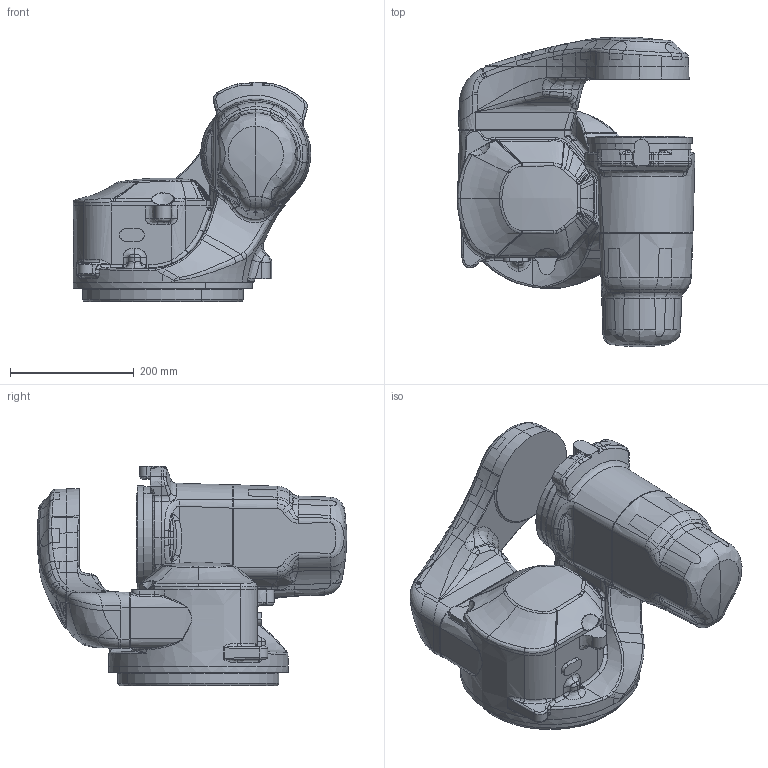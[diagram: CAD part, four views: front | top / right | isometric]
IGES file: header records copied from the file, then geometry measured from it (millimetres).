
Start section: START RECORD GO HERE.
Global section: file name: 20_UMMZ12_A2_FRAME_ASSY.igs; native system: DASSAULT SYSTEMES CATIA Version 5-6 Release 2012 - www.3ds.com; preprocessor: V5-6R2012_5.22.4.0.11-16-2012.22.00; author: RBT00090; organization: NACHI-JP; date: 20170720.143746; units: millimetre
Bounding box: 383.96 x 500.21 x 355 mm (x, y, z)
Volume: 8355682.9 mm3; surface area: 634897.2 mm2
Topology: 1 solids, 1 shells, 1135 faces, 3248 edges, 2100 vertices
Faces by surface type: bspline 894, revolution 164, plane 77
